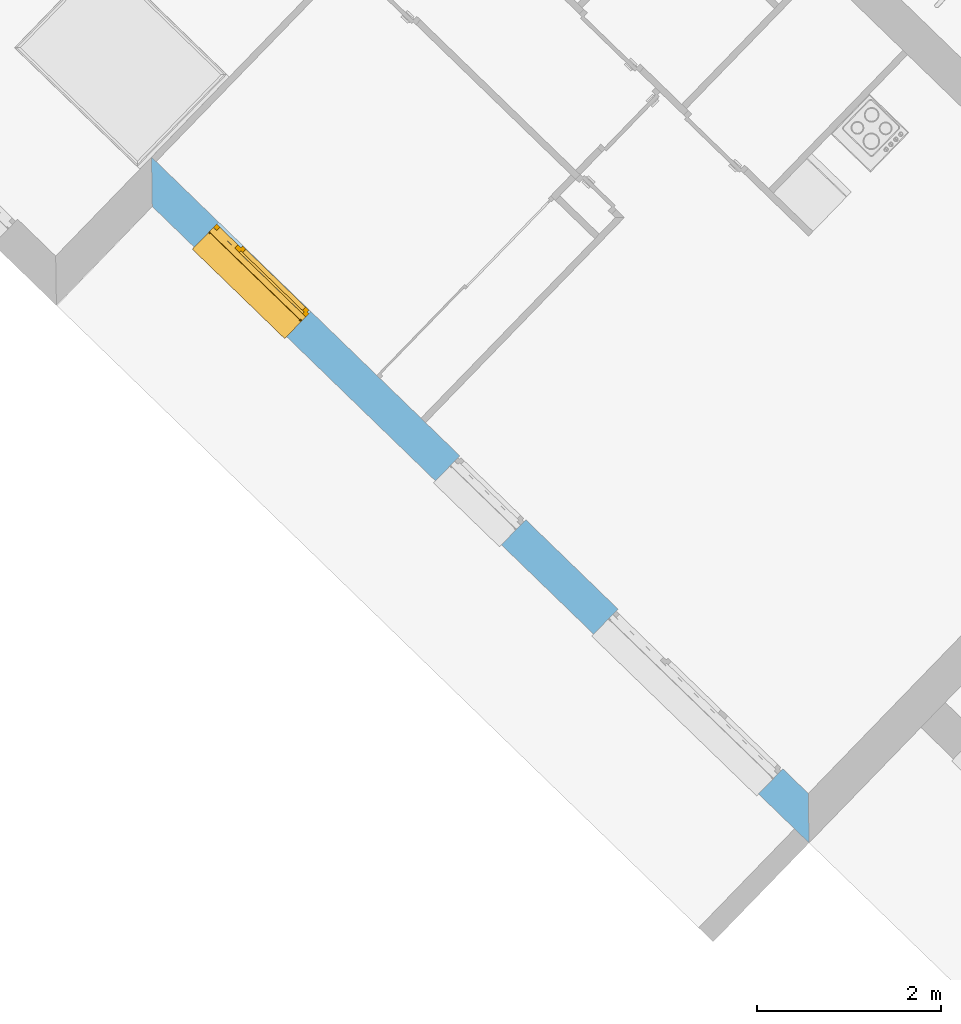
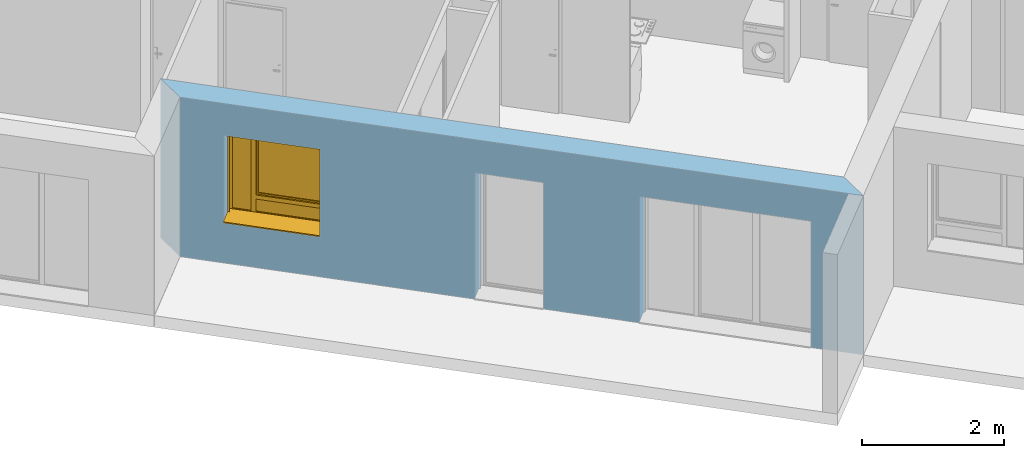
# One storey, part 16 of 195: 1 window, 3 openings, plus 1 element that does not belong to this part.
"""IFC2X3 building model written with IfcOpenShell, lengths in metres."""

from ifc_helpers import new_model, entity, si_unit, converted_unit, derived_unit, money_unit, direction, frame, origin_with_axes, place, context, subcontext, project, spatial, polyline, outline, extrude, open_shell, faceted_brep, surface_model, source, transform, mapped, material, layer, layer_set, layer_usage, type_object, element, fill, save


model = new_model("IFC2X3")

# Units and contexts
model_context = context("Model", 3, precision=1e-05, world=origin_with_axes(), true_north=direction((0.0, 1.0)))
body_context = subcontext(model_context, "Body", "Model", "MODEL_VIEW")
ifc_project = project(units=[si_unit("LENGTHUNIT", "METRE"), si_unit("AREAUNIT", "SQUARE_METRE"), si_unit("VOLUMEUNIT", "CUBIC_METRE"), converted_unit("PLANEANGLEUNIT", "DEGREE", entity("IfcPlaneAngleMeasure", 0.0174532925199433), si_unit("PLANEANGLEUNIT", "RADIAN"), dimensions=[0, 0, 0, 0, 0, 0, 0]), money_unit("CHF"), converted_unit("TIMEUNIT", "Year", entity("IfcTimeMeasure", 31557600.0), si_unit("TIMEUNIT", "SECOND"), dimensions=[0, 0, 1, 0, 0, 0, 0]), si_unit("MASSUNIT", "GRAM", prefix="KILO"), si_unit("THERMODYNAMICTEMPERATUREUNIT", "DEGREE_CELSIUS"), si_unit("LUMINOUSINTENSITYUNIT", "LUMEN"), si_unit("ENERGYUNIT", "JOULE", prefix="MEGA"), derived_unit("THERMALCONDUCTANCEUNIT", [(si_unit("POWERUNIT", "WATT"), 1), (si_unit("LENGTHUNIT", "METRE"), -1), (si_unit("THERMODYNAMICTEMPERATUREUNIT", "KELVIN"), -1)]), derived_unit("SPECIFICHEATCAPACITYUNIT", [(si_unit("ENERGYUNIT", "JOULE"), 1), (si_unit("MASSUNIT", "GRAM", prefix="KILO"), -1), (si_unit("THERMODYNAMICTEMPERATUREUNIT", "KELVIN"), -1)]), derived_unit("MASSDENSITYUNIT", [(si_unit("MASSUNIT", "GRAM", prefix="KILO"), 1), (si_unit("VOLUMEUNIT", "CUBIC_METRE"), -1)])], contexts=[model_context])

# Site, building, storey
site_placement = place(None, origin_with_axes())
site = spatial("IfcSite", under=ifc_project, at=site_placement, Name="Site", CompositionType="ELEMENT")
building_placement = place(site_placement, origin_with_axes())
building = spatial("IfcBuilding", under=site, at=building_placement, Name="Bâtiment", CompositionType="ELEMENT")
storey_placement = place(building_placement, origin_with_axes())
storey = spatial("IfcBuildingStorey", under=building, at=storey_placement, Name="rdc", CompositionType="ELEMENT", Elevation=0.0)

# Wall, openings, window
ifc_material_1 = material(Name="Parpaing 312445824")
ifc_layer_1 = layer(ifc_material_1, 0.22, ventilated="UNKNOWN")
ifc_material_2 = material(Name="Isolant styromousse 301821074")
ifc_layer_2 = layer(ifc_material_2, 0.16, ventilated="UNKNOWN")
ifc_layer_set = layer_set([ifc_layer_1, ifc_layer_2], Name="isol int 22+16 0836643197")
ifc_layer_usage = layer_usage(ifc_layer_set, "AXIS2", "NEGATIVE", 0.0)
wall_type = type_object("IfcWallType", Name="isol int 22+16 0836643197 380", PredefinedType="NOTDEFINED")
wall_placement = place(storey_placement, frame((9522.723727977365, -1071.439827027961, 57.7), z_axis=(0.0, 0.0, 1.0), x_axis=(-0.7181763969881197, 0.6958610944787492, 0.0)))
wall = element("IfcWallStandardCase", 1, at=wall_placement, inside=storey, type_object=wall_type, material=ifc_layer_usage, Name="Mur-115", context=body_context, shape_type="SweptSolid", body=[
    extrude(outline(polyline([(0.3799999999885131, -0.3800000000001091), (10.33768647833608, -0.3799999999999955), (9.957686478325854, 0.0), (0.0, 0.0), (0.3799999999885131, -0.3800000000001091)])), origin_with_axes(), (0.0, 0.0, 1.0), 2.75),
])
opening_1_placement = place(wall_placement, frame((8.621077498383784, 0.0, 0.7000000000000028), z_axis=(0.0, 0.0, 1.0), x_axis=(1.0, 0.0, 0.0)))
opening_1 = element("IfcOpeningElement", 2, at=opening_1_placement, cuts=wall, Name="Fen-045", context=body_context, shape_type="Brep", body=[
    faceted_brep([(0.7000000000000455, -0.4800000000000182, 1.5), (-0.6999999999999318, -0.4800000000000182, 1.5), (-0.6999999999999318, -5.35736391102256, 1.5), (0.7000000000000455, -5.357363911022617, 1.5), (0.7000000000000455, -0.4800000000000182, 1.700000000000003), (-0.6999999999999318, -0.4800000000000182, 1.700000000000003), (-0.6999999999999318, -0.2999999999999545, 1.5), (-0.6999999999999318, -0.2999999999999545, 0.0), (-0.6999999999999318, -5.35736391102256, 0.0), (0.7000000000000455, -5.357363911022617, 0.0), (0.7000000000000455, -0.3000000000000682, 1.5), (0.7000000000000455, -0.3000000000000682, 0.0), (0.7000000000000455, -0.220000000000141, 1.5), (0.7000000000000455, -0.220000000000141, 1.700000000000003), (-0.6999999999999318, -0.2200000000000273, 1.700000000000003), (-0.6999999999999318, -0.2200000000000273, 1.5), (-0.7000000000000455, 4.977363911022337, 1.5), (-0.7000000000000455, 4.977363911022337, 0.0), (0.6999999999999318, 4.977363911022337, 0.0), (0.6999999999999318, 4.977363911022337, 1.5)], [[[0, 1, 2, 3]], [[1, 0, 4, 5]], [[1, 6, 7, 8, 2]], [[2, 8, 9, 3]], [[10, 0, 3, 9, 11]], [[0, 10, 12, 13, 4]], [[4, 13, 14, 5]], [[6, 1, 5, 14, 15]], [[6, 15, 16, 17, 7]], [[7, 11, 9, 8]], [[12, 10, 11, 18, 19]], [[12, 15, 14, 13]], [[15, 12, 19, 16]], [[19, 18, 17, 16]], [[11, 7, 17, 18]]]),
])
opening_2_placement = place(wall_placement, frame((2.015639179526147, 0.0, 0.0), z_axis=(0.0, 0.0, 1.0), x_axis=(1.0, 0.0, 0.0)))
element("IfcOpeningElement", 3, at=opening_2_placement, cuts=wall, Name="Fen-053", context=body_context, shape_type="Brep", body=[
    faceted_brep([(1.249999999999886, -0.4799999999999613, 2.18), (-1.250000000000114, -0.4799999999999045, 2.18), (-1.25, -5.357363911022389, 2.18), (1.249999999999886, -5.357363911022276, 2.18), (1.249999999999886, -0.4799999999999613, 2.380000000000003), (-1.250000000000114, -0.4799999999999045, 2.380000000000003), (-1.25, -0.2999999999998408, 2.18), (-1.25, -0.2999999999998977, 0.0), (-1.25, -5.357363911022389, 0.0), (1.249999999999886, -5.357363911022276, 0.0), (1.249999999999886, -0.2999999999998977, 2.18), (1.249999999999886, -0.2999999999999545, 0.0), (1.249999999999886, -0.2199999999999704, 2.18), (1.249999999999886, -0.2199999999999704, 2.380000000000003), (-1.250000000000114, -0.2199999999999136, 2.380000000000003), (-1.250000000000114, -0.2199999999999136, 2.18), (-1.25, 4.977363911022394, 2.18), (-1.25, 4.977363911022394, 0.0), (1.249999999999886, 4.977363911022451, 0.0), (1.249999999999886, 4.977363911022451, 2.18)], [[[0, 1, 2, 3]], [[1, 0, 4, 5]], [[1, 6, 7, 8, 2]], [[2, 8, 9, 3]], [[10, 0, 3, 9, 11]], [[0, 10, 12, 13, 4]], [[4, 13, 14, 5]], [[6, 1, 5, 14, 15]], [[6, 15, 16, 17, 7]], [[7, 11, 9, 8]], [[12, 10, 11, 18, 19]], [[12, 15, 14, 13]], [[15, 12, 19, 16]], [[19, 18, 17, 16]], [[11, 7, 17, 18]]]),
])
opening_3_placement = place(wall_placement, frame((5.163672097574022, 0.0, 0.0), z_axis=(0.0, 0.0, 1.0), x_axis=(1.0, 0.0, 0.0)))
element("IfcOpeningElement", 4, at=opening_3_placement, cuts=wall, Name="Fen-052", context=body_context, shape_type="Brep", body=[
    faceted_brep([(0.5000000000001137, -0.4799999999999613, 2.18), (-0.4999999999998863, -0.480000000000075, 2.18), (-0.4999999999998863, -5.357363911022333, 2.18), (0.5000000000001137, -5.357363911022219, 2.18), (0.5000000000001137, -0.4799999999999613, 2.380000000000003), (-0.4999999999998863, -0.480000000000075, 2.380000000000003), (-0.4999999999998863, -0.3000000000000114, 2.18), (-0.4999999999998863, -0.3000000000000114, 0.0), (-0.4999999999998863, -5.357363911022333, 0.0), (0.5000000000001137, -5.357363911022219, 0.0), (0.5, -0.2999999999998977, 2.18), (0.5000000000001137, -0.2999999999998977, 0.0), (0.5, -0.2199999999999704, 2.18), (0.5, -0.2199999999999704, 2.380000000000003), (-0.4999999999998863, -0.2200000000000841, 2.380000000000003), (-0.4999999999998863, -0.2200000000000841, 2.18), (-0.5, 4.977363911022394, 2.18), (-0.5, 4.977363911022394, 0.0), (0.5000000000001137, 4.977363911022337, 0.0), (0.5000000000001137, 4.977363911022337, 2.18)], [[[0, 1, 2, 3]], [[1, 0, 4, 5]], [[1, 6, 7, 8, 2]], [[2, 8, 9, 3]], [[10, 0, 3, 9, 11]], [[0, 10, 12, 13, 4]], [[14, 5, 4, 13]], [[6, 1, 5, 14, 15]], [[6, 15, 16, 17, 7]], [[7, 11, 9, 8]], [[12, 10, 11, 18, 19]], [[12, 15, 14, 13]], [[15, 12, 19, 16]], [[19, 18, 17, 16]], [[11, 7, 17, 18]]]),
])
window_style = type_object("IfcWindowStyle", Name="Fenêtre variable 27", ConstructionType="NOTDEFINED", OperationType="TRIPLE_PANEL_LEFT", ParameterTakesPrecedence=False, Sizeable=False)
shared_shape = source(origin_with_axes(), body_context, "Body", "SurfaceModel", [
    surface_model("IfcShellBasedSurfaceModel", [(0.7, -0.05100000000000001, 0.05), (-0.7, -0.05100000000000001, 0.05000000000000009), (-0.7, -0.05100000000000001, 0.04000000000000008), (0.7, -0.05100000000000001, 0.04), (-0.7, -0.3799999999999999, 0.02900000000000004), (0.7, -0.3799999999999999, 0.02899999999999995), (-0.7, -0.3799999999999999, 0.00900000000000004), (0.7, -0.3799999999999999, 0.008999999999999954), (-0.7, -0.3699999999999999, 0.01900000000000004), (0.7, -0.3699999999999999, 0.01899999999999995)], [open_shell([[[0, 1, 2, 3]], [[3, 2, 4, 5]], [[5, 4, 6, 7]], [[7, 6, 8, 9]]])]),
    faceted_brep([(0.7, -0.13, 1.7), (0.7, 0.13, 1.7), (0.697, 0.13, 1.7), (0.697, -0.13, 1.7), (0.7, -0.13, 1.5), (0.7, 0.13, 1.5), (0.697, 0.13, 1.5), (0.697, -0.13, 1.5)], [[[0, 1, 2, 3]], [[0, 4, 5, 1]], [[1, 5, 6, 2]], [[3, 2, 6, 7]], [[4, 0, 3, 7]], [[5, 4, 7, 6]]]),
    faceted_brep([(-0.6970000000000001, -0.1299999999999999, 1.7), (-0.6970000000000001, 0.1300000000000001, 1.7), (-0.7000000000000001, 0.1300000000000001, 1.7), (-0.7000000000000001, -0.1299999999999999, 1.7), (-0.6970000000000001, -0.1299999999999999, 1.5), (-0.6970000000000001, 0.1300000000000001, 1.5), (-0.7000000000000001, 0.1300000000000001, 1.5), (-0.7000000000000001, -0.1299999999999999, 1.5)], [[[0, 1, 2, 3]], [[0, 4, 5, 1]], [[1, 5, 6, 2]], [[3, 2, 6, 7]], [[4, 0, 3, 7]], [[5, 4, 7, 6]]]),
    faceted_brep([(0.697, -0.13, 1.5), (0.697, -0.13, 1.7), (-0.697, -0.1299999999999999, 1.7), (-0.697, -0.1299999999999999, 1.5), (0.697, -0.127, 1.5), (0.697, -0.127, 1.697), (0.697, 0.127, 1.697), (0.697, 0.127, 1.503), (0.697, -0.108, 1.503), (0.697, -0.108, 1.5), (0.697, 0.13, 1.5), (0.697, 0.13, 1.7), (-0.697, 0.1300000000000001, 1.7), (-0.697, 0.1300000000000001, 1.5), (-0.697, -0.1079999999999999, 1.5), (-0.697, -0.1079999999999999, 1.503), (-0.697, 0.1270000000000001, 1.503), (-0.697, 0.1270000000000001, 1.697), (-0.697, -0.1269999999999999, 1.697), (-0.697, -0.1269999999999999, 1.5)], [[[0, 1, 2, 3]], [[0, 4, 5, 6, 7, 8, 9, 10, 11, 1]], [[1, 11, 12, 2]], [[3, 2, 12, 13, 14, 15, 16, 17, 18, 19]], [[4, 0, 3, 19]], [[5, 4, 19, 18]], [[6, 5, 18, 17]], [[7, 6, 17, 16]], [[8, 7, 16, 15]], [[9, 8, 15, 14]], [[10, 9, 14, 13]], [[11, 10, 13, 12]]]),
    faceted_brep([(0.694, -0.08075423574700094, 1.585760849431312), (0.694, -0.07705479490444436, 1.571954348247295), (0.694, -0.07101408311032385, 1.559), (0.694, -0.06281564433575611, 1.547291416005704), (0.694, -0.05270858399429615, 1.537184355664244), (0.694, -0.04099999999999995, 1.528985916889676), (0.694, -0.02804565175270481, 1.522945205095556), (0.694, -0.01423915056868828, 1.519245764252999), (0.694, 0.0, 1.518), (0.694, 0.01423915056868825, 1.519245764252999), (0.694, 0.02804565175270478, 1.522945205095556), (0.694, 0.04099999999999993, 1.528985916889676), (0.694, 0.05270858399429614, 1.537184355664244), (0.694, 0.06281564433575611, 1.547291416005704), (0.694, 0.07101408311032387, 1.559), (0.694, 0.07705479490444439, 1.571954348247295), (0.694, 0.08075423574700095, 1.585760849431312), (0.694, 0.0819999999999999, 1.6), (0.694, 0.08075423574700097, 1.614239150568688), (0.694, 0.0770547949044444, 1.628045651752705), (0.694, 0.07101408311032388, 1.641), (0.694, 0.06281564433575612, 1.652708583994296), (0.694, 0.05270858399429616, 1.662815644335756), (0.694, 0.04099999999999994, 1.671014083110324), (0.694, 0.02804565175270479, 1.677054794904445), (0.694, 0.01423915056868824, 1.680754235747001), (0.694, 0.0, 1.682), (0.694, -0.01423915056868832, 1.680754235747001), (0.694, -0.02804565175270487, 1.677054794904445), (0.694, -0.04100000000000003, 1.671014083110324), (0.694, -0.05270858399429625, 1.662815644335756), (0.694, -0.06281564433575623, 1.652708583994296), (0.694, -0.07101408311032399, 1.641), (0.694, -0.07705479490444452, 1.628045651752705), (0.694, -0.0807542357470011, 1.614239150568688), (0.694, -0.08200000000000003, 1.6), (-0.694, -0.08075423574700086, 1.585760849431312), (-0.694, -0.07705479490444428, 1.571954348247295), (-0.694, -0.07101408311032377, 1.559), (-0.694, -0.06281564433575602, 1.547291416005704), (-0.694, -0.05270858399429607, 1.537184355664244), (-0.694, -0.04099999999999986, 1.528985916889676), (-0.694, -0.02804565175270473, 1.522945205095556), (-0.694, -0.0142391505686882, 1.519245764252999), (-0.694, 0.0, 1.518), (-0.694, 0.01423915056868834, 1.519245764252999), (-0.694, 0.02804565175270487, 1.522945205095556), (-0.694, 0.04100000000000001, 1.528985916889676), (-0.694, 0.05270858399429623, 1.537184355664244), (-0.694, 0.06281564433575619, 1.547291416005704), (-0.694, 0.07101408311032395, 1.559), (-0.694, 0.07705479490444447, 1.571954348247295), (-0.694, 0.08075423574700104, 1.585760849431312), (-0.694, 0.08199999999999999, 1.6), (-0.694, 0.08075423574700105, 1.614239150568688), (-0.694, 0.07705479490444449, 1.628045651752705), (-0.694, 0.07101408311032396, 1.641), (-0.694, 0.0628156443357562, 1.652708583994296), (-0.694, 0.05270858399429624, 1.662815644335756), (-0.694, 0.04100000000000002, 1.671014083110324), (-0.694, 0.02804565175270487, 1.677054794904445), (-0.694, 0.01423915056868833, 1.680754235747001), (-0.694, 0.0, 1.682), (-0.694, -0.01423915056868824, 1.680754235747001), (-0.694, -0.02804565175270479, 1.677054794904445), (-0.694, -0.04099999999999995, 1.671014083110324), (-0.694, -0.05270858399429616, 1.662815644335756), (-0.694, -0.06281564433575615, 1.652708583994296), (-0.694, -0.07101408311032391, 1.641), (-0.694, -0.07705479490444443, 1.628045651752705), (-0.694, -0.08075423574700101, 1.614239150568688), (-0.694, -0.08199999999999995, 1.6)], [[[0, 1, 2, 3, 4, 5, 6, 7, 8, 9, 10, 11, 12, 13, 14, 15, 16, 17, 18, 19, 20, 21, 22, 23, 24, 25, 26, 27, 28, 29, 30, 31, 32, 33, 34, 35]], [[1, 0, 36, 37]], [[2, 1, 37, 38]], [[3, 2, 38, 39]], [[4, 3, 39, 40]], [[5, 4, 40, 41]], [[6, 5, 41, 42]], [[7, 6, 42, 43]], [[8, 7, 43, 44]], [[9, 8, 44, 45]], [[10, 9, 45, 46]], [[11, 10, 46, 47]], [[12, 11, 47, 48]], [[13, 12, 48, 49]], [[14, 13, 49, 50]], [[15, 14, 50, 51]], [[16, 15, 51, 52]], [[17, 16, 52, 53]], [[18, 17, 53, 54]], [[19, 18, 54, 55]], [[20, 19, 55, 56]], [[21, 20, 56, 57]], [[22, 21, 57, 58]], [[23, 22, 58, 59]], [[24, 23, 59, 60]], [[25, 24, 60, 61]], [[26, 25, 61, 62]], [[27, 26, 62, 63]], [[28, 27, 63, 64]], [[29, 28, 64, 65]], [[30, 29, 65, 66]], [[31, 30, 66, 67]], [[32, 31, 67, 68]], [[33, 32, 68, 69]], [[34, 33, 69, 70]], [[35, 34, 70, 71]], [[0, 35, 71, 36]], [[36, 71, 70, 69, 68, 67, 66, 65, 64, 63, 62, 61, 60, 59, 58, 57, 56, 55, 54, 53, 52, 51, 50, 49, 48, 47, 46, 45, 44, 43, 42, 41, 40, 39, 38, 37]]]),
    faceted_brep([(-0.7, -0.105, 0.03), (-0.7, -0.13, 0.03), (-0.7, -0.1299999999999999, 1.5), (-0.7, -0.1049999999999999, 1.5), (-0.6749999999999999, -0.105, 0.03), (-0.6749999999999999, -0.108, 0.03), (-0.697, -0.108, 0.03), (-0.697, -0.127, 0.03), (-0.6749999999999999, -0.127, 0.03), (-0.6749999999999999, -0.13, 0.03), (-0.6749999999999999, -0.1299999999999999, 1.5), (-0.6749999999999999, -0.1269999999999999, 1.5), (-0.697, -0.1269999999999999, 1.5), (-0.697, -0.1079999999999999, 1.5), (-0.6749999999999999, -0.1079999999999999, 1.5), (-0.6749999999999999, -0.1049999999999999, 1.5)], [[[0, 1, 2, 3]], [[0, 4, 5, 6, 7, 8, 9, 1]], [[1, 9, 10, 2]], [[3, 2, 10, 11, 12, 13, 14, 15]], [[4, 0, 3, 15]], [[5, 4, 15, 14]], [[6, 5, 14, 13]], [[7, 6, 13, 12]], [[8, 7, 12, 11]], [[9, 8, 11, 10]]]),
    faceted_brep([(0.7, -0.105, 0.03), (0.7, -0.1049999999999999, 1.5), (0.7, -0.1299999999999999, 1.5), (0.7, -0.13, 0.03), (0.6749999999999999, -0.105, 0.03), (0.6749999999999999, -0.1049999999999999, 1.5), (0.6749999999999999, -0.1079999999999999, 1.5), (0.697, -0.1079999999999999, 1.5), (0.697, -0.1269999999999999, 1.5), (0.6749999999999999, -0.1269999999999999, 1.5), (0.6749999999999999, -0.1299999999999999, 1.5), (0.6749999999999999, -0.13, 0.03), (0.6749999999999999, -0.127, 0.03), (0.697, -0.127, 0.03), (0.697, -0.108, 0.03), (0.6749999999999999, -0.108, 0.03)], [[[0, 1, 2, 3]], [[4, 5, 1, 0]], [[1, 5, 6, 7, 8, 9, 10, 2]], [[3, 2, 10, 11]], [[0, 3, 11, 12, 13, 14, 15, 4]], [[15, 6, 5, 4]], [[14, 7, 6, 15]], [[13, 8, 7, 14]], [[12, 9, 8, 13]], [[11, 10, 9, 12]]]),
    surface_model("IfcShellBasedSurfaceModel", [(0.697, -0.115, 1.6), (-0.697, -0.1149999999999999, 1.6), (-0.697, -0.12, 1.6), (0.697, -0.12, 1.6), (0.697, -0.115, 1.6), (0.697, -0.12, 1.6), (-0.697, -0.1199999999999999, 1.6), (-0.697, -0.1149999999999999, 1.6)], [open_shell([[[0, 1, 2, 3]], [[4, 5, 6, 7]]])]),
    faceted_brep([(0.697, -0.115, 1.6), (0.697, -0.1166666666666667, 1.583333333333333), (-0.697, -0.1166666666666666, 1.583333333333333), (-0.697, -0.1149999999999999, 1.6), (0.697, -0.12, 1.6), (0.697, -0.1216666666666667, 1.583333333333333), (0.697, -0.1216666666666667, 1.566666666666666), (0.697, -0.12, 1.55), (0.697, -0.115, 1.55), (0.697, -0.1166666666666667, 1.566666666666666), (-0.697, -0.1166666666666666, 1.566666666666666), (-0.697, -0.1149999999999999, 1.55), (-0.697, -0.1199999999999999, 1.55), (-0.697, -0.1216666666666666, 1.566666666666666), (-0.697, -0.1216666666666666, 1.583333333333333), (-0.697, -0.1199999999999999, 1.6)], [[[0, 1, 2, 3]], [[0, 4, 5, 6, 7, 8, 9, 1]], [[1, 9, 10, 2]], [[3, 2, 10, 11, 12, 13, 14, 15]], [[4, 0, 3, 15]], [[5, 4, 15, 14]], [[6, 5, 14, 13]], [[7, 6, 13, 12]], [[8, 7, 12, 11]], [[9, 8, 11, 10]]]),
    faceted_brep([(0.697, -0.115, 1.55), (0.697, -0.1166666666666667, 1.533333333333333), (-0.697, -0.1166666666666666, 1.533333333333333), (-0.697, -0.1149999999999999, 1.55), (0.697, -0.12, 1.55), (0.697, -0.1216666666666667, 1.533333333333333), (0.697, -0.1216666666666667, 1.516666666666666), (0.697, -0.12, 1.5), (0.697, -0.115, 1.5), (0.697, -0.1166666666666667, 1.516666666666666), (-0.697, -0.1166666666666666, 1.516666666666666), (-0.697, -0.1149999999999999, 1.5), (-0.697, -0.1199999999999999, 1.5), (-0.697, -0.1216666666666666, 1.516666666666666), (-0.697, -0.1216666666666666, 1.533333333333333), (-0.697, -0.1199999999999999, 1.55)], [[[0, 1, 2, 3]], [[0, 4, 5, 6, 7, 8, 9, 1]], [[1, 9, 10, 2]], [[3, 2, 10, 11, 12, 13, 14, 15]], [[4, 0, 3, 15]], [[5, 4, 15, 14]], [[6, 5, 14, 13]], [[7, 6, 13, 12]], [[8, 7, 12, 11]], [[9, 8, 11, 10]]]),
    faceted_brep([(0.6749999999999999, 0.0, 1.45), (0.6749999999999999, -0.02500000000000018, 1.45), (0.6499999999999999, -0.02500000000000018, 1.45), (0.6499999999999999, -0.05000000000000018, 1.45), (0.7, -0.05000000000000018, 1.45), (0.7, 0.0, 1.45), (0.6749999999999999, 0.0, 0.3099999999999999), (0.6749999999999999, -0.02500000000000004, 0.3099999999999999), (0.6499999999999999, -0.02500000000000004, 0.335), (0.6499999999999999, -0.02500000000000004, 0.3099999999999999), (0.6499999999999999, -0.05000000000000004, 0.335), (0.6499999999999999, -0.05000000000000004, 0.265), (0.6499999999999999, -0.05000000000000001, 0.05000000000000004), (0.7, -0.05000000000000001, 0.05000000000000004), (0.7, 0.0, 0.05000000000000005), (0.6499999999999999, 0.0, 0.05000000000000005), (0.6499999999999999, 0.0, 0.265), (0.6499999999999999, 0.0, 0.3099999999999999)], [[[0, 1, 2, 3, 4, 5]], [[1, 0, 6, 7]], [[8, 2, 1, 7, 9]], [[2, 8, 10, 3]], [[10, 11, 12, 13, 4, 3]], [[5, 4, 13, 14]], [[6, 0, 5, 14, 15, 16, 17]], [[6, 17, 9, 7]], [[9, 17, 16, 11, 10, 8]], [[15, 12, 11, 16]], [[14, 13, 12, 15]]]),
    faceted_brep([(-0.3068894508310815, -0.02500000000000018, 1.45), (-0.3318894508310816, -0.02500000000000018, 1.45), (-0.3318894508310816, 0.0, 1.45), (-0.3768894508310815, 0.0, 1.45), (-0.3768894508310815, -0.05000000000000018, 1.45), (-0.3068894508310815, -0.05000000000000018, 1.45), (-0.3068894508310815, -0.02500000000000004, 0.335), (-0.3068894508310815, -0.02500000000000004, 0.3099999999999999), (-0.3318894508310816, -0.02500000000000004, 0.3099999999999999), (-0.3318894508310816, 0.0, 0.3099999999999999), (-0.3068894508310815, 0.0, 0.3099999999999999), (-0.3068894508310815, 0.0, 0.265), (-0.3068894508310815, 0.0, 0.05000000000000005), (-0.3768894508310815, 0.0, 0.05000000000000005), (-0.3768894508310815, -0.05000000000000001, 0.05000000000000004), (-0.3068894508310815, -0.05000000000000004, 0.265), (-0.3068894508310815, -0.05000000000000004, 0.335), (-0.3068894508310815, -0.05000000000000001, 0.05000000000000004)], [[[0, 1, 2, 3, 4, 5]], [[1, 0, 6, 7, 8]], [[9, 2, 1, 8]], [[9, 10, 11, 12, 13, 3, 2]], [[13, 14, 4, 3]], [[15, 16, 5, 4, 14, 17]], [[6, 0, 5, 16]], [[7, 6, 16, 15, 11, 10]], [[10, 9, 8, 7]], [[11, 15, 17, 12]], [[12, 17, 14, 13]]]),
    faceted_brep([(0.6499999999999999, -0.02500000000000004, 0.335), (-0.3068894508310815, -0.02500000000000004, 0.335), (-0.3068894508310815, -0.05000000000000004, 0.335), (0.6499999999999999, -0.05000000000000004, 0.335), (-0.3068894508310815, -0.02500000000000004, 0.3099999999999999), (0.6499999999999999, -0.02500000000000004, 0.3099999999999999), (-0.3068894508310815, 0.0, 0.3099999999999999), (-0.3068894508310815, 0.0, 0.265), (-0.3068894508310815, -0.05000000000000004, 0.265), (0.6499999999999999, -0.05000000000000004, 0.265), (0.6499999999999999, 0.0, 0.265), (0.6499999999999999, 0.0, 0.3099999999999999)], [[[0, 1, 2, 3]], [[4, 1, 0, 5]], [[4, 6, 7, 8, 2, 1]], [[2, 8, 9, 3]], [[5, 0, 3, 9, 10, 11]], [[11, 6, 4, 5]], [[6, 11, 10, 7]], [[10, 9, 8, 7]]]),
    faceted_brep([(0.6749999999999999, 0.0, 1.45), (0.6749999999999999, 0.0, 1.475), (-0.3318894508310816, 0.0, 1.475), (-0.3318894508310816, 0.0, 1.45), (-0.3768894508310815, 0.0, 1.45), (-0.6499999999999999, 0.0, 1.45), (-0.7, 0.0, 1.45), (-0.7, 0.0, 1.5), (0.7, 0.0, 1.5), (0.7, 0.0, 1.45), (0.6749999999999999, -0.02500000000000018, 1.45), (0.6749999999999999, -0.02500000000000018, 1.475), (-0.3318894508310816, -0.02500000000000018, 1.475), (-0.3318894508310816, -0.02500000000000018, 1.45), (-0.3068894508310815, -0.02500000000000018, 1.45), (-0.3068894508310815, -0.05000000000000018, 1.45), (-0.3768894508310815, -0.05000000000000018, 1.45), (-0.6499999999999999, -0.05000000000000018, 1.45), (-0.7, -0.05000000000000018, 1.45), (-0.7, -0.05000000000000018, 1.5), (0.7, -0.05000000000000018, 1.5), (0.7, -0.05000000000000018, 1.45), (0.6499999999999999, -0.05000000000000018, 1.45), (0.6499999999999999, -0.02500000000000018, 1.45)], [[[0, 1, 2, 3, 4, 5, 6, 7, 8, 9]], [[1, 0, 10, 11]], [[2, 1, 11, 12]], [[3, 2, 12, 13]], [[13, 14, 15, 16, 4, 3]], [[4, 16, 17, 5]], [[5, 17, 18, 6]], [[6, 18, 19, 7]], [[7, 19, 20, 8]], [[8, 20, 21, 9]], [[10, 0, 9, 21, 22, 23]], [[14, 13, 12, 11, 10, 23]], [[14, 23, 22, 15]], [[16, 15, 22, 21, 20, 19, 18, 17]]]),
    faceted_brep([(-0.6499999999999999, -0.05000000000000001, 0.05), (-0.7, -0.05000000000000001, 0.05), (-0.7, 0.0, 0.05000000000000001), (-0.6499999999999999, 0.0, 0.05000000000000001), (-0.6499999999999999, -0.05000000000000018, 1.45), (-0.7, -0.05000000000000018, 1.45), (-0.7, 0.0, 1.45), (-0.6499999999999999, 0.0, 1.45)], [[[0, 1, 2, 3]], [[0, 4, 5, 1]], [[1, 5, 6, 2]], [[3, 2, 6, 7]], [[4, 0, 3, 7]], [[5, 4, 7, 6]]]),
    faceted_brep([(0.6499999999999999, -0.05000000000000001, 0.05), (0.7, -0.05000000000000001, 0.05), (0.7, 0.0, 0.05000000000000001), (0.6499999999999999, 0.0, 0.05000000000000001), (-0.3068894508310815, -0.05000000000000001, 0.05), (-0.3768894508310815, -0.05000000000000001, 0.05), (-0.6499999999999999, -0.05000000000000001, 0.05), (-0.7, -0.05000000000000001, 0.05), (-0.7, -0.05, 0.0), (0.7, -0.05, 0.0), (0.7, 0.0, 0.0), (-0.7, 0.0, 0.0), (-0.7, 0.0, 0.05000000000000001), (-0.6499999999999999, 0.0, 0.05000000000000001), (-0.3768894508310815, 0.0, 0.05000000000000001), (-0.3068894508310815, 0.0, 0.05000000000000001)], [[[0, 1, 2, 3]], [[0, 4, 5, 6, 7, 8, 9, 1]], [[1, 9, 10, 2]], [[3, 2, 10, 11, 12, 13, 14, 15]], [[4, 0, 3, 15]], [[5, 4, 15, 14]], [[6, 5, 14, 13]], [[7, 6, 13, 12]], [[8, 7, 12, 11]], [[9, 8, 11, 10]]]),
    faceted_brep([(0.625, -0.02500000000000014, 1.425), (0.6749999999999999, -0.02500000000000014, 1.425), (0.6749999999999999, 0.02499999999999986, 1.425), (0.625, 0.02499999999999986, 1.425), (0.625, -0.02500000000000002, 0.3599999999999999), (0.6749999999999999, -0.02500000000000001, 0.3599999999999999), (0.6749999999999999, 0.02499999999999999, 0.3599999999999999), (0.625, 0.02499999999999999, 0.3599999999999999)], [[[0, 1, 2, 3]], [[0, 4, 5, 1]], [[1, 5, 6, 2]], [[3, 2, 6, 7]], [[4, 0, 3, 7]], [[5, 4, 7, 6]]]),
    faceted_brep([(-0.2818894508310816, -0.02500000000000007, 0.3599999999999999), (-0.3318894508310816, -0.02500000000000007, 0.3599999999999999), (-0.3318894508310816, 0.02499999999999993, 0.3599999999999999), (-0.2818894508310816, 0.02499999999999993, 0.3599999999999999), (-0.2818894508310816, -0.0250000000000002, 1.425), (-0.3318894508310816, -0.0250000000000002, 1.425), (-0.3318894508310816, 0.0249999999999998, 1.425), (-0.2818894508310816, 0.0249999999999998, 1.425)], [[[0, 1, 2, 3]], [[0, 4, 5, 1]], [[1, 5, 6, 2]], [[3, 2, 6, 7]], [[4, 0, 3, 7]], [[5, 4, 7, 6]]]),
    faceted_brep([(-0.3318894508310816, -0.02500000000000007, 0.3099999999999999), (-0.3318894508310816, -0.02500000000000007, 0.3599999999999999), (-0.3318894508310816, 0.02499999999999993, 0.3599999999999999), (-0.3318894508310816, 0.02499999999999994, 0.3099999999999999), (0.6749999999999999, -0.025, 0.3099999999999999), (0.6749999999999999, -0.02500000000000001, 0.3599999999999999), (0.625, -0.02500000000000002, 0.3599999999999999), (-0.2818894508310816, -0.02500000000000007, 0.3599999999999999), (-0.2818894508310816, 0.02499999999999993, 0.3599999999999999), (0.625, 0.02499999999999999, 0.3599999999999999), (0.6749999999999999, 0.02499999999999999, 0.3599999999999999), (0.6749999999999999, 0.02499999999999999, 0.3099999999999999)], [[[0, 1, 2, 3]], [[0, 4, 5, 6, 7, 1]], [[1, 7, 8, 2]], [[3, 2, 8, 9, 10, 11]], [[4, 0, 3, 11]], [[5, 4, 11, 10]], [[6, 5, 10, 9]], [[7, 6, 9, 8]]]),
    faceted_brep([(0.6749999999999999, -0.02500000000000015, 1.475), (0.6749999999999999, -0.02500000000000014, 1.425), (0.6749999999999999, 0.02499999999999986, 1.425), (0.6749999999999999, 0.02499999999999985, 1.475), (-0.3318894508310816, -0.02500000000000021, 1.475), (-0.3318894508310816, -0.0250000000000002, 1.425), (-0.2818894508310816, -0.0250000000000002, 1.425), (0.625, -0.02500000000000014, 1.425), (0.625, 0.02499999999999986, 1.425), (-0.2818894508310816, 0.0249999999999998, 1.425), (-0.3318894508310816, 0.0249999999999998, 1.425), (-0.3318894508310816, 0.02499999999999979, 1.475)], [[[0, 1, 2, 3]], [[0, 4, 5, 6, 7, 1]], [[1, 7, 8, 2]], [[3, 2, 8, 9, 10, 11]], [[4, 0, 3, 11]], [[5, 4, 11, 10]], [[6, 5, 10, 9]], [[7, 6, 9, 8]]]),
    surface_model("IfcShellBasedSurfaceModel", [(0.625, -0.01000000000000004, 0.3599999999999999), (0.625, -0.01000000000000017, 1.425), (-0.2818894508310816, -0.01000000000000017, 1.425), (-0.2818894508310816, -0.01000000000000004, 0.3599999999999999)], [open_shell([[[0, 1, 2, 3]]])]),
    surface_model("IfcShellBasedSurfaceModel", [(0.625, 0.009999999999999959, 0.3599999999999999), (-0.2818894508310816, 0.009999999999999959, 0.3599999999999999), (-0.2818894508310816, 0.00999999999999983, 1.425), (0.625, 0.00999999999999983, 1.425)], [open_shell([[[0, 1, 2, 3]]])]),
    surface_model("IfcShellBasedSurfaceModel", [(-0.3768894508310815, -0.035, 0.05), (-0.3768894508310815, -0.03500000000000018, 1.45), (-0.65, -0.03500000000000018, 1.45), (-0.65, -0.035, 0.05)], [open_shell([[[0, 1, 2, 3]]])]),
    surface_model("IfcShellBasedSurfaceModel", [(-0.3768894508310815, -0.015, 0.05), (-0.65, -0.015, 0.05), (-0.65, -0.01500000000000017, 1.45), (-0.3768894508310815, -0.01500000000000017, 1.45)], [open_shell([[[0, 1, 2, 3]]])]),
    surface_model("IfcShellBasedSurfaceModel", [(0.6499999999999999, -0.035, 0.05), (0.6499999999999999, -0.03500000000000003, 0.265), (-0.3068894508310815, -0.03500000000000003, 0.265), (-0.3068894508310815, -0.035, 0.05)], [open_shell([[[0, 1, 2, 3]]])]),
    surface_model("IfcShellBasedSurfaceModel", [(0.6499999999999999, -0.015, 0.05), (-0.3068894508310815, -0.015, 0.05), (-0.3068894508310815, -0.01500000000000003, 0.265), (0.6499999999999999, -0.01500000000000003, 0.265)], [open_shell([[[0, 1, 2, 3]]])]),
])
window_placement = place(opening_1_placement, frame((0.6999999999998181, 0.0, 0.0), z_axis=(0.0, 0.0, 1.0), x_axis=(-1.0, 0.0, 0.0)))
window = element("IfcWindow", 5, at=window_placement, inside=storey, type_object=window_style, Name="Fen-045", OverallHeight=1.5, OverallWidth=1.4, context=body_context, shape_type="MappedRepresentation", body=[
    mapped(shared_shape, transform((0.7000000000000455, 0.3499999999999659, 0.0))),
])
fill(opening_1, window)

save(model, "model.ifc")
